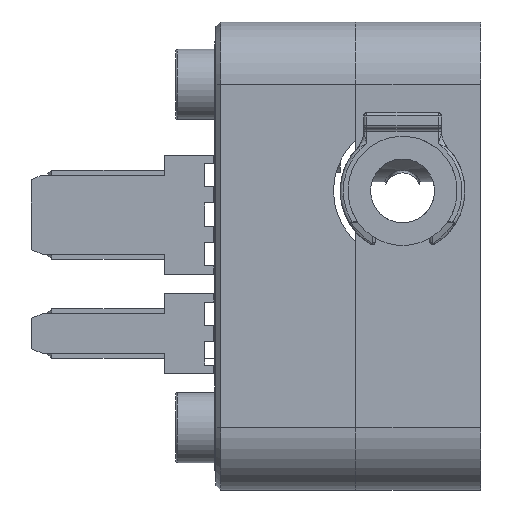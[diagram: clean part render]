
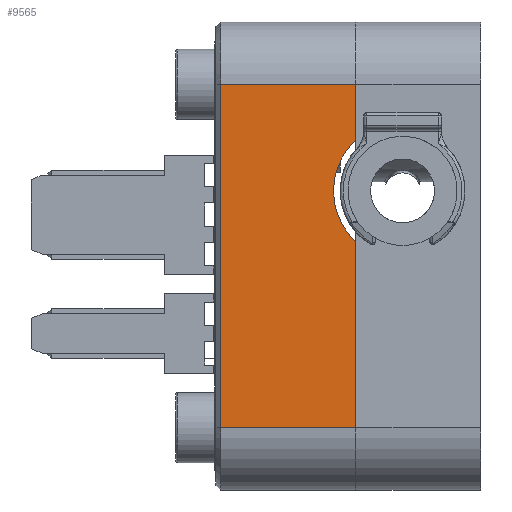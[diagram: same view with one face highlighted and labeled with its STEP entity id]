
A CAD part, left-side view. The second image highlights one B-rep face of the part: STEP entity #9565.
In plain terms, the highlighted planar face has unit normal (-1, 0, 0).
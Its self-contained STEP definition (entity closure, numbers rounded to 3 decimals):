
#1269=LINE('',#26415,#2048);
#1284=LINE('',#26722,#2063);
#1285=LINE('',#26728,#2064);
#1286=LINE('',#26729,#2065);
#1287=LINE('',#26730,#2066);
#2048=VECTOR('',#13305,1.);
#2063=VECTOR('',#13384,1.);
#2064=VECTOR('',#13389,1.);
#2065=VECTOR('',#13390,1.);
#2066=VECTOR('',#13391,1.);
#2280=PLANE('',#10610);
#2771=FACE_OUTER_BOUND('',#3324,.T.);
#3324=EDGE_LOOP('',(#8996,#8997,#8998,#8999,#9000,#9001));
#3863=CIRCLE('',#10611,4.425);
#4863=VERTEX_POINT('',#26409);
#4864=VERTEX_POINT('',#26413);
#4884=VERTEX_POINT('',#26720);
#4885=VERTEX_POINT('',#26724);
#4886=VERTEX_POINT('',#26725);
#4887=VERTEX_POINT('',#26727);
#6366=EDGE_CURVE('',#4863,#4864,#1269,.T.);
#6402=EDGE_CURVE('',#4863,#4884,#1284,.T.);
#6403=EDGE_CURVE('',#4885,#4886,#3863,.T.);
#6404=EDGE_CURVE('',#4885,#4887,#1285,.T.);
#6405=EDGE_CURVE('',#4887,#4864,#1286,.T.);
#6406=EDGE_CURVE('',#4884,#4886,#1287,.T.);
#8996=ORIENTED_EDGE('',*,*,#6403,.F.);
#8997=ORIENTED_EDGE('',*,*,#6404,.T.);
#8998=ORIENTED_EDGE('',*,*,#6405,.T.);
#8999=ORIENTED_EDGE('',*,*,#6366,.F.);
#9000=ORIENTED_EDGE('',*,*,#6402,.T.);
#9001=ORIENTED_EDGE('',*,*,#6406,.T.);
#9565=ADVANCED_FACE('',(#2771),#2280,.F.);
#10610=AXIS2_PLACEMENT_3D('',#26723,#13385,#13386);
#10611=AXIS2_PLACEMENT_3D('',#26726,#13387,#13388);
#13305=DIRECTION('',(0.,0.,1.));
#13384=DIRECTION('',(0.,-1.,0.));
#13385=DIRECTION('center_axis',(1.,0.,0.));
#13386=DIRECTION('ref_axis',(0.,0.,-1.));
#13387=DIRECTION('center_axis',(-1.,0.,0.));
#13388=DIRECTION('ref_axis',(0.,0.,-1.));
#13389=DIRECTION('',(0.,0.,1.));
#13390=DIRECTION('',(0.,1.,0.));
#13391=DIRECTION('',(0.,0.,1.));
#26409=CARTESIAN_POINT('',(-24.,16.66,-26.));
#26413=CARTESIAN_POINT('',(-24.,16.66,-4.));
#26415=CARTESIAN_POINT('',(-24.,16.66,-20.5));
#26720=CARTESIAN_POINT('',(-24.,8.,-26.));
#26722=CARTESIAN_POINT('',(-24.,13.94,-26.));
#26723=CARTESIAN_POINT('Origin',(-24.,13.94,-26.));
#26724=CARTESIAN_POINT('',(-24.,8.,-7.572));
#26725=CARTESIAN_POINT('',(-24.,8.,-14.078));
#26726=CARTESIAN_POINT('Origin',(-24.,5.,-10.825));
#26727=CARTESIAN_POINT('',(-24.,8.,-4.));
#26728=CARTESIAN_POINT('',(-24.,8.,-20.5));
#26729=CARTESIAN_POINT('',(-24.,13.94,-4.));
#26730=CARTESIAN_POINT('',(-24.,8.,-20.5));
